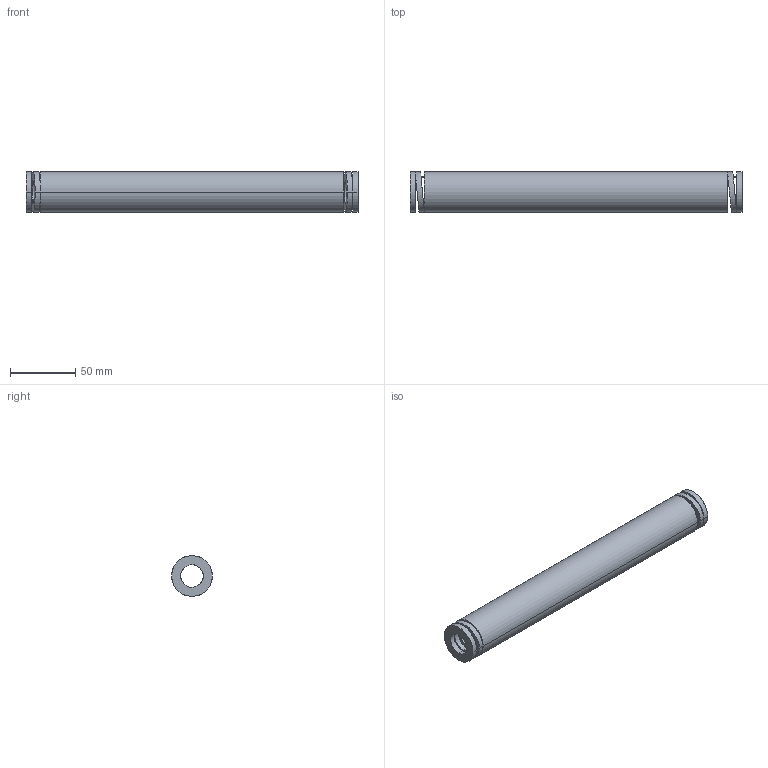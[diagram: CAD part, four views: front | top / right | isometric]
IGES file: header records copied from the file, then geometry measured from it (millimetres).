
Start section: START RECORD GO HERE.
Global section: file name: 392-B32-254.igs; native system: DASSAULT SYSTEMES CATIA V5 R20 - www.3ds.com; preprocessor: CATIA Version 5 Release 20 ; author: Utente; organization: NB04-ASUS; date: 20210813.104825; units: millimetre
Bounding box: 254 x 31.24 x 31 mm (x, y, z)
Surface area: 42871.5 mm2 (no closed solid volume)
Topology: 0 solids, 0 shells, 38 faces, 184 edges, 184 vertices
Faces by surface type: revolution 28, plane 10
